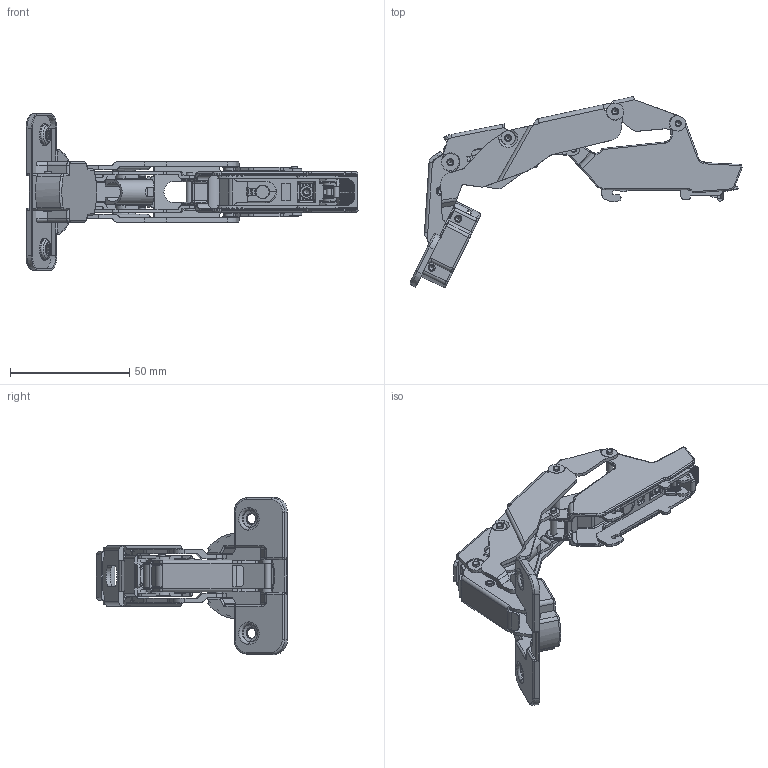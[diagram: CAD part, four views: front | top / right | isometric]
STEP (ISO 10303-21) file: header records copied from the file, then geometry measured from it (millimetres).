
FILE_DESCRIPTION (( 'STEP AP214' ), '1' );
FILE_NAME ('A2901-155ST, VLOŽENÝ, TLUMENÝ, EXCENTR, CLIP_350851_3D.STEP', '2019-07-23T10:20:03', ( '' ), ( '' ), 'SwSTEP 2.0', 'SolidWorks 2019', '' );
FILE_SCHEMA (( 'AUTOMOTIVE_DESIGN' ));
Length unit declared in the file: millimetre
Products named in the file (1): A2901-155ST, VLOŽENÝ, TLUMENÝ, EXCENTR, CLIP_350851_3D
Bounding box: 139.37 x 80.2 x 66.02 mm (x, y, z)
Volume: 26784.5 mm3; surface area: 42573.1 mm2
Topology: 25 solids, 25 shells, 1794 faces, 4660 edges, 2905 vertices
Faces by surface type: plane 745, cylinder 651, bspline 327, cone 40, sphere 31
Full cylindrical faces by diameter (mm): 0.6 x3, 2 x5, 2.5 x5, 2.55 x2, 2.9 x15, 2.92 x16, 2.95 x2, 3 x5, 3.2 x1, 3.3 x1, 3.5 x4, 4 x7, 4.2 x2, 4.6 x1, 5.3 x1, 5.6 x2, 5.8 x1, 6.6 x1, 7.3 x2, 7.5 x1, 8 x1, 8.3 x1, 8.5 x1, 8.7 x2, 10 x1
Entity records: 98790 total; most frequent: CARTESIAN_POINT 38630, ORIENTED_EDGE 8960, DIRECTION 7447, EDGE_CURVE 4480, VERTEX_POINT 2877, AXIS2_PLACEMENT_3D 2585, VECTOR 2277, LINE 2277
